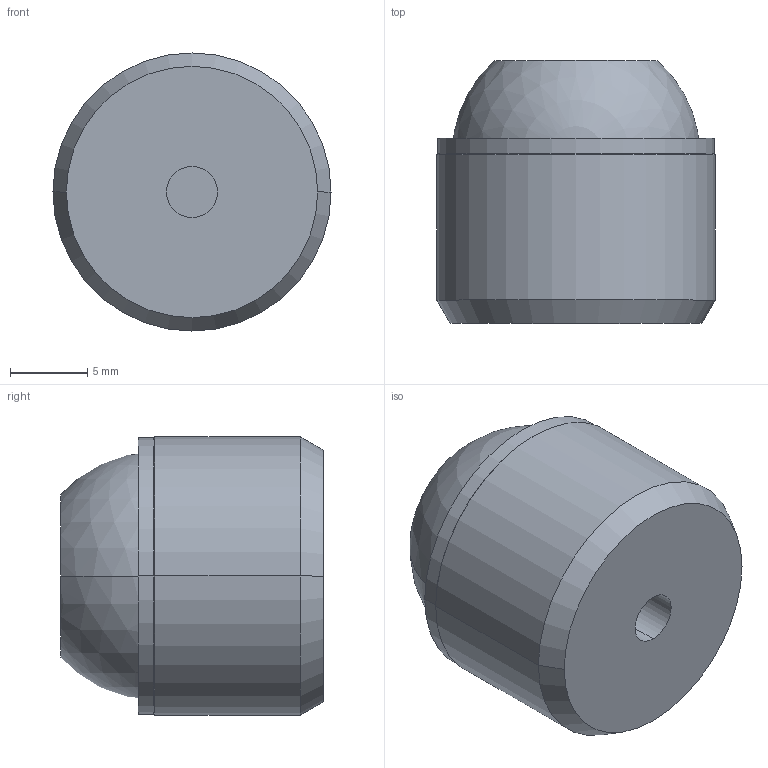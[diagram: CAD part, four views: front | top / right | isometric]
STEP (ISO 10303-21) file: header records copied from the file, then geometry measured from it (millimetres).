
FILE_DESCRIPTION (( 'STEP AP214' ), '1' );
FILE_NAME ('709.2-18-B.step', '2023-01-26T12:37:48', ( '' ), ( '' ), 'SwSTEP 2.0', 'SolidWorks 2022', '' );
FILE_SCHEMA (( 'AUTOMOTIVE_DESIGN' ));
Length unit declared in the file: millimetre
Products named in the file (3): WB709.2_Gehäuse^WB709.2_18; WB709.2_Kugel^WB709.2_16-B; 709.2-18-B
Assembly tree (2 placements, depth 2):
  709.2-18-B
    WB709.2_Gehäuse^WB709.2_18
    WB709.2_Kugel^WB709.2_16-B
Bounding box: 18 x 17 x 18 mm (x, y, z)
Volume: 3699.3 mm3; surface area: 2200.9 mm2
Topology: 2 solids, 2 shells, 19 faces, 46 edges, 28 vertices
Faces by surface type: cylinder 6, plane 5, cone 4, sphere 4
Entity records: 624 total; most frequent: DIRECTION 110, CARTESIAN_POINT 82, ORIENTED_EDGE 72, AXIS2_PLACEMENT_3D 50, EDGE_CURVE 36, CIRCLE 26, EDGE_LOOP 22, VERTEX_POINT 22
